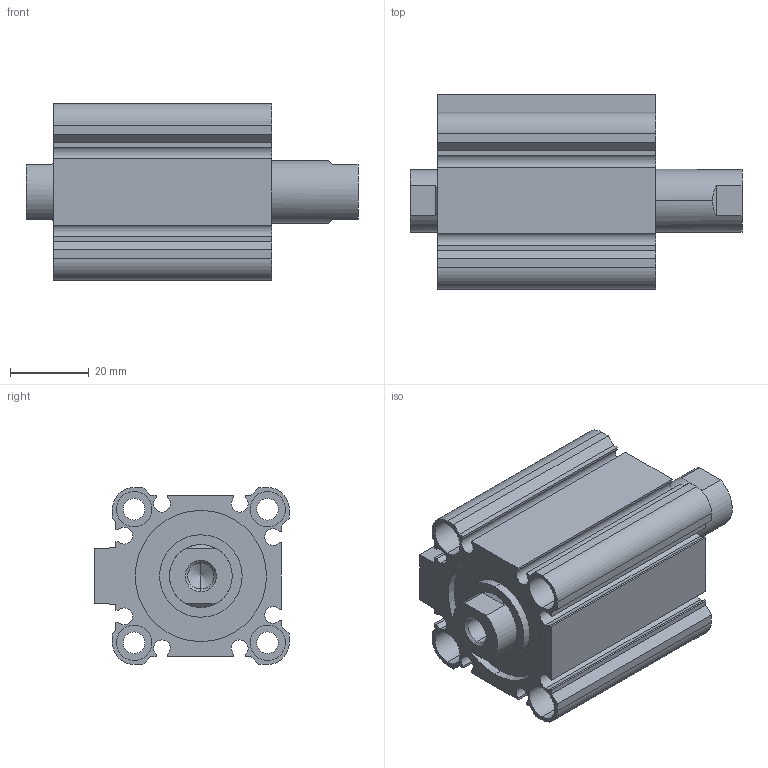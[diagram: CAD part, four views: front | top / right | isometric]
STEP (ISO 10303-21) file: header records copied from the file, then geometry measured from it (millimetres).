
FILE_DESCRIPTION (( 'STEP AP203' ), '1' );
FILE_NAME ('CCMB32-15F-P.STEP', '2020-08-05T11:13:05', ( '' ), ( '' ), 'SwSTEP 2.0', 'SolidWorks 2019', '' );
FILE_SCHEMA (( 'CONFIG_CONTROL_DESIGN' ));
Length unit declared in the file: millimetre
Products named in the file (1): CCMB32-15F-P
Bounding box: 84.5 x 49.5 x 45 mm (x, y, z)
Volume: 83315.7 mm3; surface area: 35628.1 mm2
Topology: 2 solids, 2 shells, 164 faces, 414 edges, 270 vertices
Faces by surface type: plane 78, cylinder 74, cone 12
Entity records: 5025 total; most frequent: DIRECTION 888, CARTESIAN_POINT 869, ORIENTED_EDGE 820, EDGE_CURVE 410, AXIS2_PLACEMENT_3D 321, VERTEX_POINT 270, LINE 246, VECTOR 246
